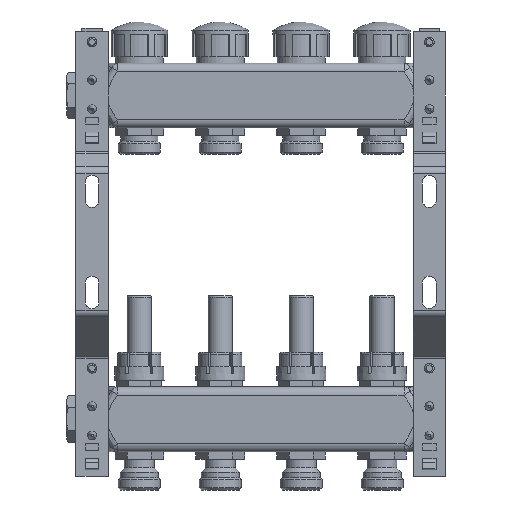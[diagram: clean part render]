
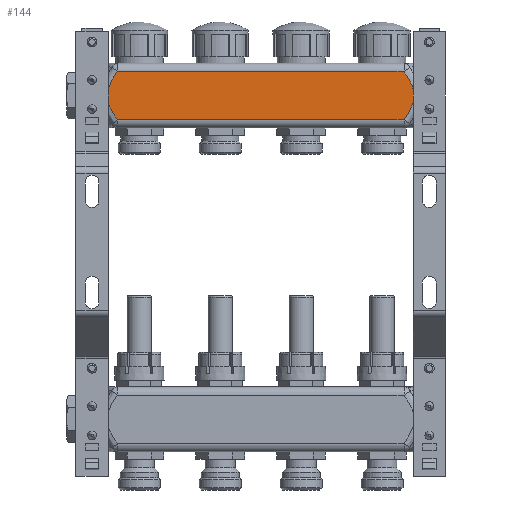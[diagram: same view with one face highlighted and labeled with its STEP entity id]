
A CAD part, front view. The second image highlights one B-rep face of the part: STEP entity #144.
In plain terms, the highlighted planar face has unit normal (0, -1, 0).
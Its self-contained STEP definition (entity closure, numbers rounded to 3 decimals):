
#144=ADVANCED_FACE('',(#2689),#2691,.T.);
#2689=FACE_BOUND('',#2690,.T.);
#2690=EDGE_LOOP('',(#12744,#12745,#12746,#12747));
#2691=PLANE('',#2692);
#2692=AXIS2_PLACEMENT_3D('',#2693,#2694,#2695);
#2693=CARTESIAN_POINT('',(1.7,19.8,-19.65));
#2694=DIRECTION('',(0.,-1.,0.));
#2695=DIRECTION('',(0.,0.,-1.));
#12744=ORIENTED_EDGE('',*,*,#18449,.T.);
#12745=ORIENTED_EDGE('',*,*,#18450,.F.);
#12746=ORIENTED_EDGE('',*,*,#18169,.T.);
#12747=ORIENTED_EDGE('',*,*,#18451,.T.);
#18169=EDGE_CURVE('',#21266,#21264,#21267,.T.);
#18449=EDGE_CURVE('',#21735,#21736,#21737,.T.);
#18450=EDGE_CURVE('',#21266,#21736,#21738,.T.);
#18451=EDGE_CURVE('',#21264,#21735,#21739,.T.);
#21264=VERTEX_POINT('',#28437);
#21266=VERTEX_POINT('',#28442);
#21267=B_SPLINE_CURVE_WITH_KNOTS('',3,
(#28443,#28444,#28445,#28446,#28447,#28448,#28449,#28450,#28451,#28452,#28453,#28454,
#28455,#28456,#28457,#28458,#28459,#28460,#28461,#28462,#28463,#28464,#28465,#28466),
.UNSPECIFIED.,.F.,.F.,
(4,1,1,1,1,1,1,1,1,1,1,1,1,1,1,1,1,1,1,1,1,4),
(0.,0.066,0.123,0.171,0.221,0.271,
0.322,0.369,0.413,0.45,0.485,
0.521,0.557,0.597,0.64,0.687,
0.738,0.789,0.841,0.891,0.945,
1.),
.UNSPECIFIED.);
#21735=VERTEX_POINT('',#30703);
#21736=VERTEX_POINT('',#30704);
#21737=B_SPLINE_CURVE_WITH_KNOTS('',3,
(#30705,#30706,#30707,#30708,#30709,#30710,#30711,#30712,#30713,#30714,#30715,#30716,
#30717,#30718,#30719,#30720,#30721,#30722,#30723,#30724,#30725,#30726,#30727,#30728),
.UNSPECIFIED.,.F.,.F.,
(4,1,1,1,1,1,1,1,1,1,1,1,1,1,1,1,1,1,1,1,1,4),
(0.,0.066,0.123,0.171,0.221,0.271,
0.322,0.369,0.413,0.45,0.485,
0.521,0.557,0.597,0.64,0.687,
0.738,0.789,0.841,0.891,0.945,
1.),
.UNSPECIFIED.);
#21738=LINE('',#30729,#30730);
#21739=LINE('',#30732,#30733);
#28437=CARTESIAN_POINT('',(25.634,19.8,-54.65));
#28442=CARTESIAN_POINT('',(25.634,19.8,-24.65));
#28443=CARTESIAN_POINT('',(25.634,19.8,-24.65));
#28444=CARTESIAN_POINT('',(25.196,19.8,-25.269));
#28445=CARTESIAN_POINT('',(24.401,19.8,-26.43));
#28446=CARTESIAN_POINT('',(23.362,19.8,-28.064));
#28447=CARTESIAN_POINT('',(22.485,19.8,-29.562));
#28448=CARTESIAN_POINT('',(21.717,19.8,-31.008));
#28449=CARTESIAN_POINT('',(21.012,19.8,-32.516));
#28450=CARTESIAN_POINT('',(20.421,19.8,-34.022));
#28451=CARTESIAN_POINT('',(19.968,19.8,-35.487));
#28452=CARTESIAN_POINT('',(19.669,19.8,-36.817));
#28453=CARTESIAN_POINT('',(19.494,19.8,-38.033));
#28454=CARTESIAN_POINT('',(19.414,19.8,-39.176));
#28455=CARTESIAN_POINT('',(19.421,19.8,-40.315));
#28456=CARTESIAN_POINT('',(19.518,19.8,-41.495));
#28457=CARTESIAN_POINT('',(19.72,19.8,-42.746));
#28458=CARTESIAN_POINT('',(20.047,19.8,-44.096));
#28459=CARTESIAN_POINT('',(20.52,19.8,-45.553));
#28460=CARTESIAN_POINT('',(21.134,19.8,-47.064));
#28461=CARTESIAN_POINT('',(21.87,19.8,-48.596));
#28462=CARTESIAN_POINT('',(22.685,19.8,-50.094));
#28463=CARTESIAN_POINT('',(23.586,19.8,-51.598));
#28464=CARTESIAN_POINT('',(24.565,19.8,-53.112));
#28465=CARTESIAN_POINT('',(25.27,19.8,-54.135));
#28466=CARTESIAN_POINT('',(25.634,19.8,-54.65));
#30703=CARTESIAN_POINT('',(202.766,19.8,-54.65));
#30704=CARTESIAN_POINT('',(202.766,19.8,-24.65));
#30705=CARTESIAN_POINT('',(202.766,19.8,-54.65));
#30706=CARTESIAN_POINT('',(203.204,19.8,-54.031));
#30707=CARTESIAN_POINT('',(203.999,19.8,-52.87));
#30708=CARTESIAN_POINT('',(205.038,19.8,-51.236));
#30709=CARTESIAN_POINT('',(205.915,19.8,-49.738));
#30710=CARTESIAN_POINT('',(206.683,19.8,-48.292));
#30711=CARTESIAN_POINT('',(207.388,19.8,-46.784));
#30712=CARTESIAN_POINT('',(207.979,19.8,-45.278));
#30713=CARTESIAN_POINT('',(208.432,19.8,-43.813));
#30714=CARTESIAN_POINT('',(208.731,19.8,-42.483));
#30715=CARTESIAN_POINT('',(208.906,19.8,-41.267));
#30716=CARTESIAN_POINT('',(208.986,19.8,-40.124));
#30717=CARTESIAN_POINT('',(208.979,19.8,-38.985));
#30718=CARTESIAN_POINT('',(208.882,19.8,-37.805));
#30719=CARTESIAN_POINT('',(208.68,19.8,-36.554));
#30720=CARTESIAN_POINT('',(208.353,19.8,-35.204));
#30721=CARTESIAN_POINT('',(207.88,19.8,-33.747));
#30722=CARTESIAN_POINT('',(207.266,19.8,-32.236));
#30723=CARTESIAN_POINT('',(206.53,19.8,-30.704));
#30724=CARTESIAN_POINT('',(205.715,19.8,-29.206));
#30725=CARTESIAN_POINT('',(204.814,19.8,-27.702));
#30726=CARTESIAN_POINT('',(203.835,19.8,-26.188));
#30727=CARTESIAN_POINT('',(203.13,19.8,-25.165));
#30728=CARTESIAN_POINT('',(202.766,19.8,-24.65));
#30729=CARTESIAN_POINT('',(25.634,19.8,-24.65));
#30730=VECTOR('',#30731,1.);
#30731=DIRECTION('',(1.,0.,0.));
#30732=CARTESIAN_POINT('',(25.634,19.8,-54.65));
#30733=VECTOR('',#30734,1.);
#30734=DIRECTION('',(1.,0.,0.));
